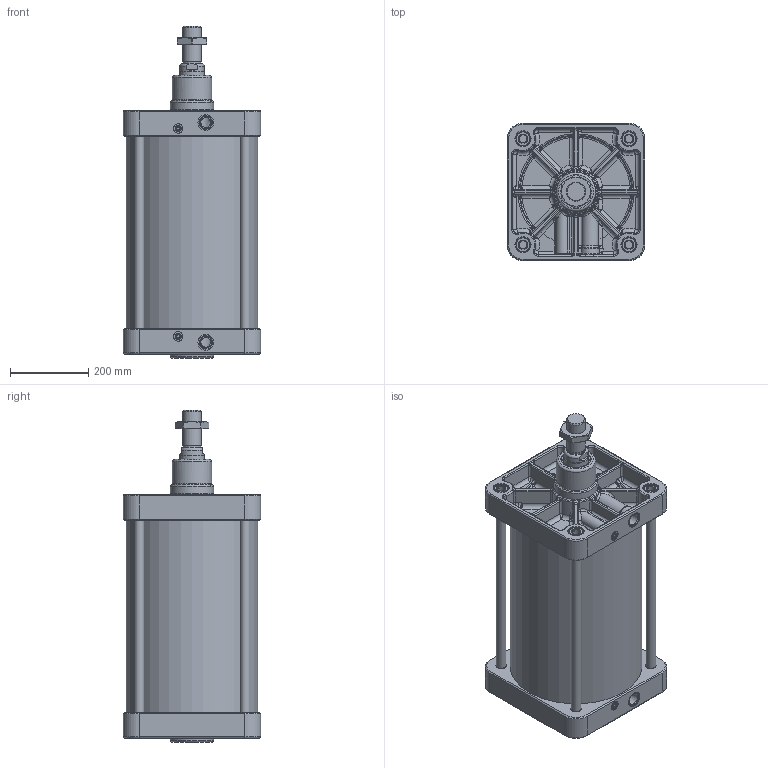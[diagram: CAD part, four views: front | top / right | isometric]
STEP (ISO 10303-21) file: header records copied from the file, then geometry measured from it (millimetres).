
FILE_DESCRIPTION(/* description */ (''),/* implementation_level */ '2;1');
FILE_NAME(/* name */ 'T:\Archivio Inventor\- 00 NUOVI STP PER SITO CON STELO CHE SI MUOVE\SERIE H - U\SERIE UDM\UDM320.---.GS.M\UDM320.400.GS.M.stp',/* time_stamp */ '2020-04-29T16:30:59+02:00',/* author */ ('carlo.corazza'),/* organization */ (''),/* preprocessor_version */ 'ST-DEVELOPER v16.5',/* originating_system */ 'Autodesk Inventor 2017',/* authorisation */ '');
FILE_SCHEMA (('AUTOMOTIVE_DESIGN { 1 0 10303 214 3 1 1 }'));
Length unit declared in the file: millimetre
Products named in the file (7): UDM320.400.GS.M; TP; STELO-400; TA; CORPO-400; TIRANTE-400; 29.2048.000.0
Assembly tree (9 placements, depth 2):
  UDM320.400.GS.M
    TP
    STELO-400
    TA
    TIRANTE-400  x4
    CORPO-400
    29.2048.000.0
Bounding box: 350 x 350 x 846 mm (x, y, z)
Volume: 16367686.9 mm3; surface area: 2496910.7 mm2
Topology: 9 solids, 16 shells, 1710 faces, 3937 edges, 2221 vertices
Faces by surface type: cylinder 439, bspline 432, plane 380, torus 252, cone 115, sphere 92
Full cylindrical faces by diameter (mm): 8 x2, 9 x1, 10 x1, 11 x2, 11.2 x2, 12 x2, 12.376 x1, 13.4 x4, 14 x2, 15.8 x4, 16 x6, 20.752 x8, 24 x10, 24.5 x8, 25 x6, 30.291 x2, 36 x9, 37 x8, 40 x2, 44.8 x1, 45.835 x1, 48 x1, 62 x1, 63 x1, 64 x1, 64.293 x1, 65.8 x1, 73 x1, 75 x3, 100 x1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
Entity records: 64917 total; most frequent: CARTESIAN_POINT 27888, DIRECTION 7314, ORIENTED_EDGE 7088, EDGE_CURVE 3544, AXIS2_PLACEMENT_3D 3113, VERTEX_POINT 2134, EDGE_LOOP 1966, FACE_OUTER_BOUND 1683
